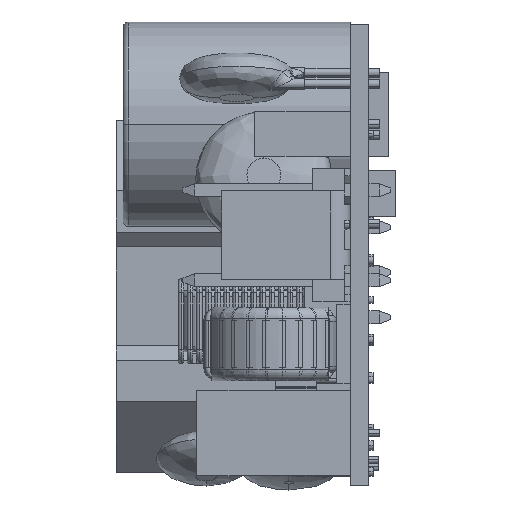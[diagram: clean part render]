
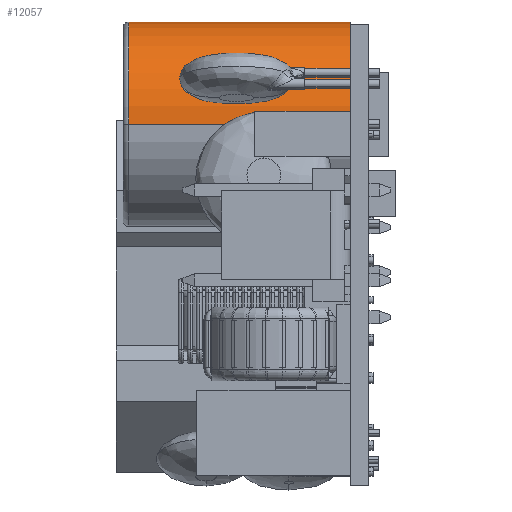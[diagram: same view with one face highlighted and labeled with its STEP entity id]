
A CAD part, left-side view. The second image highlights one B-rep face of the part: STEP entity #12057.
In plain terms, the highlighted cylindrical face has radius 9 mm (diameter 18 mm), a partial arc.
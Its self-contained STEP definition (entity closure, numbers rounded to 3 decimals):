
#3279 = AXIS2_PLACEMENT_3D ( 'NONE', #36736, #83105, #57279 ) ;
#5861 = DIRECTION ( 'NONE',  ( 0., 1., 0. ) ) ;
#6931 = DIRECTION ( 'NONE',  ( -1., 0., 0. ) ) ;
#7118 = VERTEX_POINT ( 'NONE', #25981 ) ;
#10252 = CARTESIAN_POINT ( 'NONE',  ( -20.169, 20.9, 11.541 ) ) ;
#12057 = ADVANCED_FACE ( 'NONE', ( #72060 ), #12835, .T. ) ;
#12835 = CYLINDRICAL_SURFACE ( 'NONE', #88274, 9. ) ;
#17308 = CARTESIAN_POINT ( 'NONE',  ( -20.169, 1.4, 11.541 ) ) ;
#18171 = DIRECTION ( 'NONE',  ( 1., 0., 0. ) ) ;
#19844 = ORIENTED_EDGE ( 'NONE', *, *, #77697, .T. ) ;
#19874 = CARTESIAN_POINT ( 'NONE',  ( -11.169, 20.9, 11.541 ) ) ;
#25981 = CARTESIAN_POINT ( 'NONE',  ( -2.169, 20.9, 11.541 ) ) ;
#26842 = AXIS2_PLACEMENT_3D ( 'NONE', #19874, #67135, #6931 ) ;
#28371 = EDGE_LOOP ( 'NONE', ( #52601, #19844, #85192, #51506 ) ) ;
#31519 = CARTESIAN_POINT ( 'NONE',  ( -20.169, 1.4, 11.541 ) ) ;
#31647 = VERTEX_POINT ( 'NONE', #31519 ) ;
#33237 = CARTESIAN_POINT ( 'NONE',  ( -11.169, 1.4, 11.541 ) ) ;
#36736 = CARTESIAN_POINT ( 'NONE',  ( -11.169, 1.4, 11.541 ) ) ;
#39535 = DIRECTION ( 'NONE',  ( 0., 1., 0. ) ) ;
#39750 = CARTESIAN_POINT ( 'NONE',  ( -2.169, 1.4, 11.541 ) ) ;
#46866 = LINE ( 'NONE', #39750, #83052 ) ;
#47128 = EDGE_CURVE ( 'NONE', #61022, #7118, #46866, .T. ) ;
#47352 = CIRCLE ( 'NONE', #3279, 9. ) ;
#50624 = CARTESIAN_POINT ( 'NONE',  ( -2.169, 1.4, 11.541 ) ) ;
#51067 = CIRCLE ( 'NONE', #26842, 9. ) ;
#51159 = LINE ( 'NONE', #17308, #84157 ) ;
#51506 = ORIENTED_EDGE ( 'NONE', *, *, #87935, .F. ) ;
#52601 = ORIENTED_EDGE ( 'NONE', *, *, #52791, .F. ) ;
#52791 = EDGE_CURVE ( 'NONE', #31647, #72015, #51159, .T. ) ;
#57279 = DIRECTION ( 'NONE',  ( -1., 0., 0. ) ) ;
#61022 = VERTEX_POINT ( 'NONE', #50624 ) ;
#67135 = DIRECTION ( 'NONE',  ( 0., 1., 0. ) ) ;
#72015 = VERTEX_POINT ( 'NONE', #10252 ) ;
#72060 = FACE_OUTER_BOUND ( 'NONE', #28371, .T. ) ;
#77697 = EDGE_CURVE ( 'NONE', #31647, #61022, #47352, .T. ) ;
#83052 = VECTOR ( 'NONE', #5861, 1000. ) ;
#83105 = DIRECTION ( 'NONE',  ( 0., 1., 0. ) ) ;
#84157 = VECTOR ( 'NONE', #84595, 1000. ) ;
#84595 = DIRECTION ( 'NONE',  ( 0., 1., 0. ) ) ;
#85192 = ORIENTED_EDGE ( 'NONE', *, *, #47128, .T. ) ;
#87935 = EDGE_CURVE ( 'NONE', #72015, #7118, #51067, .T. ) ;
#88274 = AXIS2_PLACEMENT_3D ( 'NONE', #33237, #39535, #18171 ) ;
